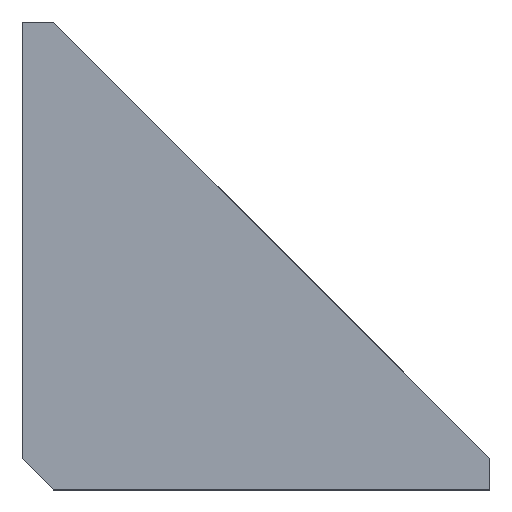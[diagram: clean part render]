
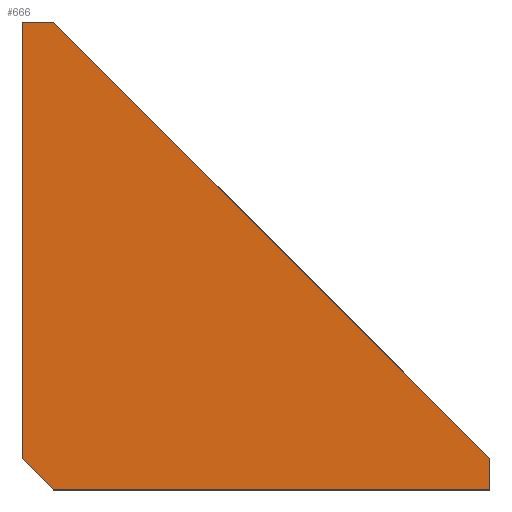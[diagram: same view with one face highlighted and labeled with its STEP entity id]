
A CAD part, top view. The second image highlights one B-rep face of the part: STEP entity #666.
In plain terms, the highlighted planar face has unit normal (0, 0, 1).
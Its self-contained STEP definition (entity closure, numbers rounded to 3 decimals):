
#3 = EDGE_CURVE ( 'NONE', #500, #365, #200, .T. ) ;
#23 = EDGE_CURVE ( 'NONE', #89, #108, #281, .T. ) ;
#28 = EDGE_CURVE ( 'NONE', #37, #89, #224, .T. ) ;
#37 = VERTEX_POINT ( 'NONE', #279 ) ;
#47 = CARTESIAN_POINT ( 'NONE',  ( 3., 45., 10. ) ) ;
#56 = DIRECTION ( 'NONE',  ( 1., 0., 0. ) ) ;
#89 = VERTEX_POINT ( 'NONE', #288 ) ;
#99 = CARTESIAN_POINT ( 'NONE',  ( 0., 0., 10. ) ) ;
#108 = VERTEX_POINT ( 'NONE', #161 ) ;
#157 = ORIENTED_EDGE ( 'NONE', *, *, #299, .T. ) ;
#161 = CARTESIAN_POINT ( 'NONE',  ( 0., 45., 10. ) ) ;
#174 = VECTOR ( 'NONE', #219, 1000. ) ;
#193 = FACE_OUTER_BOUND ( 'NONE', #217, .T. ) ;
#200 = LINE ( 'NONE', #202, #646 ) ;
#202 = CARTESIAN_POINT ( 'NONE',  ( 3., 0., 10. ) ) ;
#205 = CARTESIAN_POINT ( 'NONE',  ( 45., 3., 10. ) ) ;
#209 = LINE ( 'NONE', #99, #428 ) ;
#217 = EDGE_LOOP ( 'NONE', ( #725, #447, #157, #285, #603, #442 ) ) ;
#219 = DIRECTION ( 'NONE',  ( 0., 1., 0. ) ) ;
#224 = LINE ( 'NONE', #47, #362 ) ;
#243 = DIRECTION ( 'NONE',  ( 0., 0., -1. ) ) ;
#279 = CARTESIAN_POINT ( 'NONE',  ( 45., 3., 10. ) ) ;
#281 = LINE ( 'NONE', #386, #497 ) ;
#285 = ORIENTED_EDGE ( 'NONE', *, *, #432, .T. ) ;
#288 = CARTESIAN_POINT ( 'NONE',  ( 3., 45., 10. ) ) ;
#299 = EDGE_CURVE ( 'NONE', #365, #340, #711, .T. ) ;
#340 = VERTEX_POINT ( 'NONE', #549 ) ;
#341 = VECTOR ( 'NONE', #56, 1000. ) ;
#352 = AXIS2_PLACEMENT_3D ( 'NONE', #629, #243, #632 ) ;
#362 = VECTOR ( 'NONE', #449, 1000. ) ;
#365 = VERTEX_POINT ( 'NONE', #450 ) ;
#376 = EDGE_CURVE ( 'NONE', #108, #500, #209, .T. ) ;
#386 = CARTESIAN_POINT ( 'NONE',  ( 0., 45., 10. ) ) ;
#428 = VECTOR ( 'NONE', #435, 1000. ) ;
#429 = DIRECTION ( 'NONE',  ( 0.707, -0.707, 0. ) ) ;
#432 = EDGE_CURVE ( 'NONE', #340, #37, #678, .T. ) ;
#435 = DIRECTION ( 'NONE',  ( 0., -1., 0. ) ) ;
#442 = ORIENTED_EDGE ( 'NONE', *, *, #23, .T. ) ;
#447 = ORIENTED_EDGE ( 'NONE', *, *, #3, .T. ) ;
#449 = DIRECTION ( 'NONE',  ( -0.707, 0.707, 0. ) ) ;
#450 = CARTESIAN_POINT ( 'NONE',  ( 3., 0., 10. ) ) ;
#464 = CARTESIAN_POINT ( 'NONE',  ( 0., 3., 10. ) ) ;
#497 = VECTOR ( 'NONE', #559, 1000. ) ;
#500 = VERTEX_POINT ( 'NONE', #464 ) ;
#549 = CARTESIAN_POINT ( 'NONE',  ( 45., 0., 10. ) ) ;
#559 = DIRECTION ( 'NONE',  ( -1., 0., 0. ) ) ;
#603 = ORIENTED_EDGE ( 'NONE', *, *, #28, .T. ) ;
#629 = CARTESIAN_POINT ( 'NONE',  ( 0., 0., 10. ) ) ;
#632 = DIRECTION ( 'NONE',  ( -1., 0., 0. ) ) ;
#646 = VECTOR ( 'NONE', #429, 1000. ) ;
#666 = ADVANCED_FACE ( 'NONE', ( #193 ), #695, .F. ) ;
#678 = LINE ( 'NONE', #205, #174 ) ;
#695 = PLANE ( 'NONE',  #352 ) ;
#711 = LINE ( 'NONE', #731, #341 ) ;
#725 = ORIENTED_EDGE ( 'NONE', *, *, #376, .T. ) ;
#731 = CARTESIAN_POINT ( 'NONE',  ( 45., 0., 10. ) ) ;
